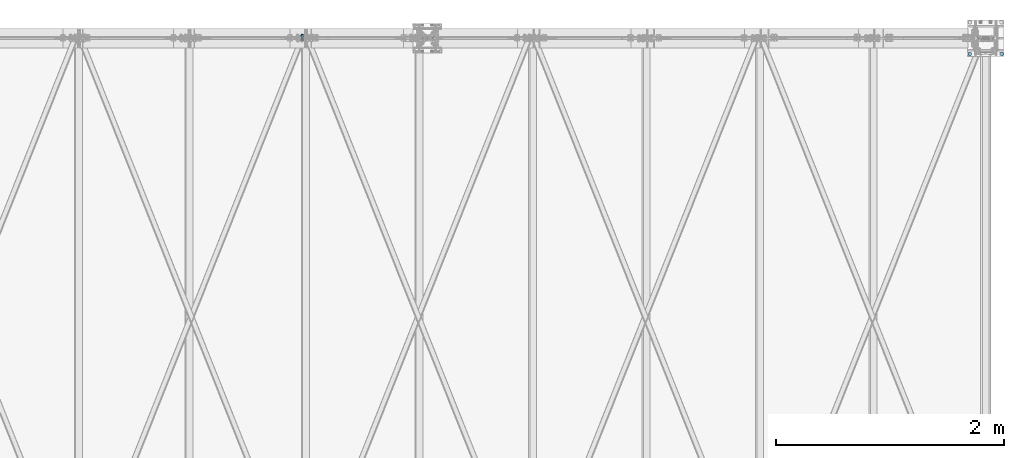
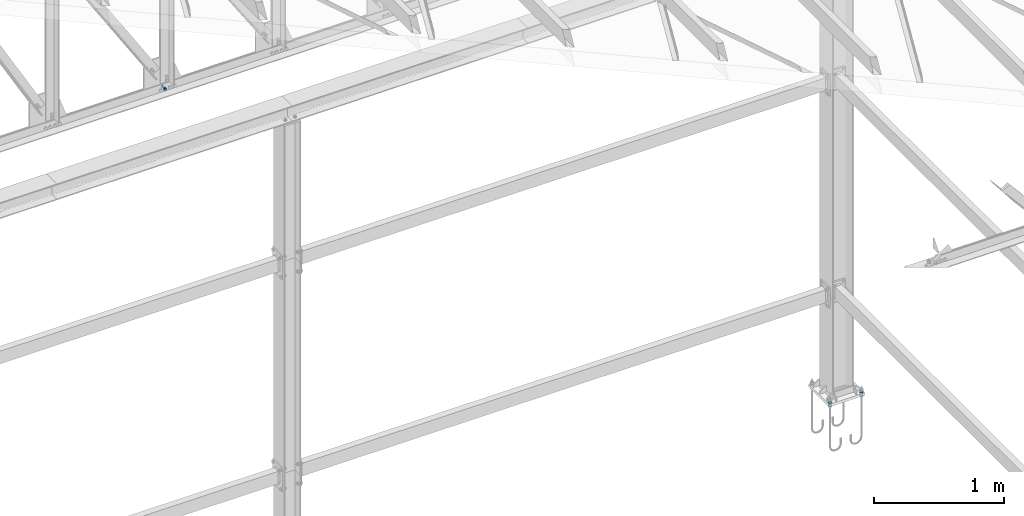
# One storey, part 209 of 251: 7 mechanical fasteners.
"""IFC4 building model written with IfcOpenShell, lengths in metres."""

import ifcopenshell
import ifcopenshell.guid

model = None  # the IFC model being written
_history = None  # IfcOwnerHistory: only IFC2X3 demands one
_inside = {}  # id of a spatial element -> (the spatial element, [elements in it])
_under = {}  # id of a project, library or spatial element -> (it, [spatial elements below it])
_declared = {}  # id of a project -> (the project, [libraries it declares])
_typed = {}  # id of a type object -> (the type object, [elements of that type])
_made_of = {}  # id of a material, layer set ... -> (it, [elements and type objects made of it])


def new_model(schema):
    """Start an empty IFC model of exactly this schema.

    Asked for "IFC4X3", IfcOpenShell would pick the latest addendum, in which some entities
    have other attributes; the version numbers below select the first issue.
    IFC2X3 requires an IfcOwnerHistory on every rooted entity: one is made here for all.
    """
    global model, _history
    if schema == "IFC4X3":
        model = ifcopenshell.file(schema_version=(4, 3, 0, 0))
    else:
        model = ifcopenshell.file(schema=schema)
    _inside.clear()
    _under.clear()
    _declared.clear()
    _typed.clear()
    _made_of.clear()
    _history = None
    if model.schema == "IFC2X3":
        org = make("IfcOrganization", Name="unknown")
        user = make(
            "IfcPersonAndOrganization",
            ThePerson=make("IfcPerson", FamilyName="unknown"),
            TheOrganization=org,
        )
        app = make(
            "IfcApplication",
            ApplicationDeveloper=org,
            Version="unknown",
            ApplicationFullName="unknown",
            ApplicationIdentifier="unknown",
        )
        _history = make(
            "IfcOwnerHistory",
            OwningUser=user,
            OwningApplication=app,
            ChangeAction="ADDED",
            CreationDate=0,
        )
    return model


def make(cls, **values):
    """One entity of the class cls with the attributes given. An attribute that is None is left unset."""
    return model.create_entity(
        cls, **{name: value for name, value in values.items() if value is not None}
    )


def rooted(cls, **values):
    """An entity with a GlobalId (a new one), such as an element, a storey or a relation."""
    return make(cls, GlobalId=ifcopenshell.guid.new(), OwnerHistory=_history, **values)


def si_unit(unit_type, name, prefix=None):
    """IfcSIUnit, for example si_unit("LENGTHUNIT", "METRE", prefix="MILLI")."""
    return make("IfcSIUnit", UnitType=unit_type, Prefix=prefix, Name=name)


def assignment(units):
    """IfcUnitAssignment: the units of a project."""
    return None if units is None else make("IfcUnitAssignment", Units=units)


def point(xyz):
    """IfcCartesianPoint."""
    return None if xyz is None else make("IfcCartesianPoint", Coordinates=xyz)


def direction(xyz):
    """IfcDirection."""
    return None if xyz is None else make("IfcDirection", DirectionRatios=xyz)


def frame(location, z_axis=None, x_axis=None):
    """IfcAxis2Placement3D, a coordinate frame: its origin and axes. An axis left out is left unset."""
    return make(
        "IfcAxis2Placement3D",
        Location=point(location),
        Axis=direction(z_axis),
        RefDirection=direction(x_axis),
    )


def origin_with_axes():
    """The frame at (0, 0, 0) with the z axis (0, 0, 1) and the x axis (1, 0, 0) written out."""
    return frame((0.0, 0.0, 0.0), z_axis=(0.0, 0.0, 1.0), x_axis=(1.0, 0.0, 0.0))


def place(relative_to, where):
    """IfcLocalPlacement: puts the frame where relative to a parent placement (None: the world)."""
    return make(
        "IfcLocalPlacement", PlacementRelTo=relative_to, RelativePlacement=where
    )


def context(
    kind, dimensions, precision=None, world=None, true_north=None, identifier=None
):
    """IfcGeometricRepresentationContext, for example the 3D "Model" context."""
    return make(
        "IfcGeometricRepresentationContext",
        ContextIdentifier=identifier,
        ContextType=kind,
        CoordinateSpaceDimension=dimensions,
        Precision=precision,
        WorldCoordinateSystem=world,
        TrueNorth=true_north,
    )


def project(units=None, contexts=None):
    """IfcProject with its units and contexts."""
    return rooted(
        "IfcProject",
        Name="project",
        RepresentationContexts=contexts,
        UnitsInContext=assignment(units),
    )


def spatial(cls, under=None, at=None, **own):
    """A site, building, storey or space (cls), placed at a placement, below another one or the project."""
    s = rooted(cls, ObjectPlacement=at, **own)
    if under is not None:
        _under.setdefault(under.id(), (under, []))[1].append(s)
    return s


def polyline(points):
    """IfcPolyline through the points."""
    return make("IfcPolyline", Points=[point(p) for p in points])


def outline(outer, holes=None, kind="AREA"):
    """IfcArbitraryClosedProfileDef: a profile drawn as a closed curve; with holes, ...WithVoids."""
    if holes is None:
        return make("IfcArbitraryClosedProfileDef", ProfileType=kind, OuterCurve=outer)
    return make(
        "IfcArbitraryProfileDefWithVoids",
        ProfileType=kind,
        OuterCurve=outer,
        InnerCurves=holes,
    )


def extrude(swept, where, along, depth):
    """IfcExtrudedAreaSolid: the profile swept, set in the frame where, extruded along a direction by depth."""
    return make(
        "IfcExtrudedAreaSolid",
        SweptArea=swept,
        Position=where,
        ExtrudedDirection=direction(along),
        Depth=depth,
    )


def shape(context_of_items, identifier, shape_type, items):
    """IfcShapeRepresentation: the items that make up one representation, for example the "Body"."""
    return make(
        "IfcShapeRepresentation",
        ContextOfItems=context_of_items,
        RepresentationIdentifier=identifier,
        RepresentationType=shape_type,
        Items=items,
    )


def made_of(thing, what):
    """Note that an element or type object is made of a material, layer set ...; save() writes the relation."""
    if what is not None:
        _made_of.setdefault(what.id(), (what, []))[1].append(thing)
    return thing


def type_object(cls, material=None, **own):
    """A type object (cls), such as IfcWallType, which elements share."""
    return made_of(rooted(cls, **own), material)


def element(
    cls,
    number,
    at=None,
    inside=None,
    cuts=None,
    type_object=None,
    material=None,
    context=None,
    identifier="Body",
    shape_type=None,
    held_by="IfcProductDefinitionShape",
    body=None,
    shapes=None,
    **own,
):
    """One element of the class cls, such as IfcWall. Its Tag is "e" and its number.

    at: its placement. inside: the storey or other place that contains it. cuts: it is an
    opening in that element (IfcRelVoidsElement). A single representation is given by context,
    identifier, shape_type and body (its items); several are given by shapes. held_by: the class
    of the entity that holds the representations. save() writes the other relations.
    """
    e = rooted(cls, Tag="e%d" % number, ObjectPlacement=at, **own)
    if body is not None:
        shapes = [shape(context, identifier, shape_type, body)]
    if shapes is not None:
        e.Representation = make(held_by, Representations=shapes)
    if inside is not None:
        _inside.setdefault(inside.id(), (inside, []))[1].append(e)
    if cuts is not None:
        rooted(
            "IfcRelVoidsElement", RelatingBuildingElement=cuts, RelatedOpeningElement=e
        )
    if type_object is not None:
        _typed.setdefault(type_object.id(), (type_object, []))[1].append(e)
    return made_of(e, material)


def aggregate(whole, parts):
    """IfcRelAggregates: a whole, such as a stair, and the parts it consists of."""
    return rooted("IfcRelAggregates", RelatingObject=whole, RelatedObjects=parts)


def save(model, path):
    """Write the relations noted so far, then the file.

    IfcRelAggregates (storeys below a building ...), IfcRelContainedInSpatialStructure (elements
    in a storey), IfcRelDefinesByType, IfcRelAssociatesMaterial and IfcRelDeclares: one each for
    every whole, place, type object, material and project.
    """
    for whole, parts in _under.values():
        aggregate(whole, parts)
    for where, things in _inside.values():
        rooted(
            "IfcRelContainedInSpatialStructure",
            RelatedElements=things,
            RelatingStructure=where,
        )
    for kind, things in _typed.values():
        rooted("IfcRelDefinesByType", RelatedObjects=things, RelatingType=kind)
    for what, things in _made_of.values():
        rooted("IfcRelAssociatesMaterial", RelatedObjects=things, RelatingMaterial=what)
    for by, libraries in _declared.values():
        rooted("IfcRelDeclares", RelatingContext=by, RelatedDefinitions=libraries)
    model.write(path)


model = new_model("IFC4")

# Units and contexts
model_context = context("Model", 3, precision=1e-05, world=origin_with_axes())
ifc_project = project(units=[si_unit("LENGTHUNIT", "METRE"), si_unit("AREAUNIT", "SQUARE_METRE"), si_unit("VOLUMEUNIT", "CUBIC_METRE"), si_unit("MASSUNIT", "GRAM", prefix="KILO"), si_unit("TIMEUNIT", "SECOND"), si_unit("PLANEANGLEUNIT", "RADIAN"), si_unit("SOLIDANGLEUNIT", "STERADIAN"), si_unit("THERMODYNAMICTEMPERATUREUNIT", "DEGREE_CELSIUS")], contexts=[model_context])

# Site, building, storey
placement_1 = place(None, origin_with_axes())
site = spatial("IfcSite", under=ifc_project, at=placement_1, Name="Italia", CompositionType="ELEMENT")
building = spatial("IfcBuilding", under=site, at=placement_1, Name="Deposito", CompositionType="ELEMENT")
storey = spatial("IfcBuildingStorey", under=building, at=placement_1, Name="Storey 0", CompositionType="ELEMENT", Elevation=0.0)

# Mechanical fasteners
mechanical_fastener_type_1 = type_object("IfcMechanicalFastenerType", Name="Collegamenti 0014_-001 0016_-054 0018_-056 0032_-002 0033_-058 0047_-003 0048_-060 0062_-004 0063_-005 0079_-008", PredefinedType="BOLT")
placement_2 = place(placement_1, origin_with_axes())
mechanical_fastener_1_placement = place(placement_2, origin_with_axes())
element("IfcMechanicalFastener", 1, at=mechanical_fastener_1_placement, inside=storey, type_object=mechanical_fastener_type_1, Name="Collegamenti 0014_-001 0016_-054 0018_-056 0032_-002 0033_-058 0047_-003 0048_-060 0062_-004 0063_-005 0079_-008", NominalDiameter=0.032, context=model_context, shape_type="SweptSolid", body=[
    extrude(outline(polyline([(0.0, 0.0), (-0.000545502, -0.00414085), (-0.00214386, -0.00799942), (-0.00468636, -0.0113144), (-0.00800133, -0.0138569), (-0.0118599, -0.0154552), (-0.0160007, -0.0160007), (-0.0201416, -0.0154552), (-0.0240002, -0.0138569), (-0.0273151, -0.0113144), (-0.0298576, -0.00799942), (-0.031456, -0.00414085), (-0.0320015, 0.0), (-0.031456, 0.00414085), (-0.0298576, 0.00799942), (-0.0273151, 0.0113144), (-0.0240002, 0.0138569), (-0.0201416, 0.0154552), (-0.0160007, 0.0160007), (-0.0118599, 0.0154552), (-0.00800133, 0.0138569), (-0.00468636, 0.0113144), (-0.00214386, 0.00799942), (-0.000545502, 0.00414085), (0.0, 0.0)])), frame((20.1395, 19.877, 0.075), z_axis=(0.0, 0.0, 1.0), x_axis=(0.0, 1.0, 0.0)), (0.0, 0.0, 1.0), 0.00399999),
])
mechanical_fastener_type_2 = type_object("IfcMechanicalFastenerType", Name="Collegamenti 0014_-001 0016_-054 0018_-056 0032_-002 0033_-058 0047_-003 0048_-060 0062_-004 0063_-005 0079_-008", PredefinedType="BOLT")
mechanical_fastener_2_placement = place(placement_2, origin_with_axes())
element("IfcMechanicalFastener", 2, at=mechanical_fastener_2_placement, inside=storey, type_object=mechanical_fastener_type_2, Name="Collegamenti 0014_-001 0016_-054 0018_-056 0032_-002 0033_-058 0047_-003 0048_-060 0062_-004 0063_-005 0079_-008", NominalDiameter=0.032, context=model_context, shape_type="SweptSolid", body=[
    extrude(outline(polyline([(0.0, 0.0), (-0.000545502, -0.00414085), (-0.00214386, -0.00799942), (-0.00468636, -0.0113144), (-0.00800133, -0.0138569), (-0.0118599, -0.0154552), (-0.0160007, -0.0160007), (-0.0201416, -0.0154552), (-0.0240002, -0.0138569), (-0.0273151, -0.0113144), (-0.0298576, -0.00799942), (-0.031456, -0.00414085), (-0.0320015, 0.0), (-0.031456, 0.00414085), (-0.0298576, 0.00799942), (-0.0273151, 0.0113144), (-0.0240002, 0.0138569), (-0.0201416, 0.0154552), (-0.0160007, 0.0160007), (-0.0118599, 0.0154552), (-0.00800133, 0.0138569), (-0.00468636, 0.0113144), (-0.00214386, 0.00799942), (-0.000545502, 0.00414085), (0.0, 0.0)])), frame((20.1395, 19.877, 0.046), z_axis=(0.0, 0.0, 1.0), x_axis=(0.0, 1.0, 0.0)), (0.0, 0.0, 1.0), 0.004),
])
mechanical_fastener_type_3 = type_object("IfcMechanicalFastenerType", Name="Collegamenti 0014_-001 0016_-054 0018_-056 0032_-002 0033_-058 0047_-003 0048_-060 0062_-004 0063_-005 0079_-008", PredefinedType="BOLT")
mechanical_fastener_3_placement = place(placement_2, origin_with_axes())
element("IfcMechanicalFastener", 3, at=mechanical_fastener_3_placement, inside=storey, type_object=mechanical_fastener_type_3, Name="Collegamenti 0014_-001 0016_-054 0018_-056 0032_-002 0033_-058 0047_-003 0048_-060 0062_-004 0063_-005 0079_-008", NominalDiameter=0.032, context=model_context, shape_type="SweptSolid", body=[
    extrude(outline(polyline([(0.0, 0.0), (-0.000545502, -0.00414085), (-0.00214386, -0.00799942), (-0.00468636, -0.0113144), (-0.00800133, -0.0138569), (-0.0118599, -0.0154552), (-0.0160007, -0.0160007), (-0.0201416, -0.0154552), (-0.0240002, -0.0138569), (-0.0273151, -0.0113144), (-0.0298576, -0.00799942), (-0.031456, -0.00414085), (-0.0320015, 0.0), (-0.031456, 0.00414085), (-0.0298576, 0.00799942), (-0.0273151, 0.0113144), (-0.0240002, 0.0138569), (-0.0201416, 0.0154552), (-0.0160007, 0.0160007), (-0.0118599, 0.0154552), (-0.00800133, 0.0138569), (-0.00468636, 0.0113144), (-0.00214386, 0.00799942), (-0.000545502, 0.00414085), (0.0, 0.0)])), frame((19.8605, 19.877, 0.075), z_axis=(0.0, 0.0, 1.0), x_axis=(0.0, 1.0, 0.0)), (0.0, 0.0, 1.0), 0.00399999),
])
mechanical_fastener_type_4 = type_object("IfcMechanicalFastenerType", Name="Collegamenti 0014_-001 0016_-054 0018_-056 0032_-002 0033_-058 0047_-003 0048_-060 0062_-004 0063_-005 0079_-008", PredefinedType="BOLT")
mechanical_fastener_4_placement = place(placement_2, origin_with_axes())
element("IfcMechanicalFastener", 4, at=mechanical_fastener_4_placement, inside=storey, type_object=mechanical_fastener_type_4, Name="Collegamenti 0014_-001 0016_-054 0018_-056 0032_-002 0033_-058 0047_-003 0048_-060 0062_-004 0063_-005 0079_-008", NominalDiameter=0.032, context=model_context, shape_type="SweptSolid", body=[
    extrude(outline(polyline([(0.0, 0.0), (-0.000545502, -0.00414085), (-0.00214386, -0.00799942), (-0.00468636, -0.0113144), (-0.00800133, -0.0138569), (-0.0118599, -0.0154552), (-0.0160007, -0.0160007), (-0.0201416, -0.0154552), (-0.0240002, -0.0138569), (-0.0273151, -0.0113144), (-0.0298576, -0.00799942), (-0.031456, -0.00414085), (-0.0320015, 0.0), (-0.031456, 0.00414085), (-0.0298576, 0.00799942), (-0.0273151, 0.0113144), (-0.0240002, 0.0138569), (-0.0201416, 0.0154552), (-0.0160007, 0.0160007), (-0.0118599, 0.0154552), (-0.00800133, 0.0138569), (-0.00468636, 0.0113144), (-0.00214386, 0.00799942), (-0.000545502, 0.00414085), (0.0, 0.0)])), frame((19.8605, 19.877, 0.046), z_axis=(0.0, 0.0, 1.0), x_axis=(0.0, 1.0, 0.0)), (0.0, 0.0, 1.0), 0.004),
])
mechanical_fastener_type_5 = type_object("IfcMechanicalFastenerType", Name="Reticolare 6", PredefinedType="BOLT")
mechanical_fastener_5_placement = place(placement_2, origin_with_axes())
element("IfcMechanicalFastener", 5, at=mechanical_fastener_5_placement, inside=storey, type_object=mechanical_fastener_type_5, Name="Reticolare 6", NominalDiameter=0.0139997, context=model_context, shape_type="SweptSolid", body=[
    extrude(outline(polyline([(0.0, 0.0), (-0.0139999, 0.0), (-0.0209999, 0.0121241), (-0.0139999, 0.0242486), (0.0, 0.0242486), (0.00699997, 0.0121241), (0.0, 0.0)])), frame((14.0078, 19.987, 4.99688), z_axis=(0.0, -1.0, 0.0), x_axis=(1.0, 0.0, 0.0)), (0.0, 0.0, 1.0), 0.0112),
])
mechanical_fastener_type_6 = type_object("IfcMechanicalFastenerType", Name="Reticolare 6", PredefinedType="BOLT")
mechanical_fastener_6_placement = place(placement_2, origin_with_axes())
element("IfcMechanicalFastener", 6, at=mechanical_fastener_6_placement, inside=storey, type_object=mechanical_fastener_type_6, Name="Reticolare 6", NominalDiameter=0.014, context=model_context, shape_type="SweptSolid", body=[
    extrude(outline(polyline([(0.0, 0.0), (-0.000238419, -0.0018115), (-0.000937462, -0.00349998), (-0.0020504, -0.00494957), (-0.00349998, -0.00606203), (-0.00518799, -0.00676155), (-0.00699997, -0.00699997), (-0.00881195, -0.00676155), (-0.0105, -0.00606203), (-0.0119495, -0.00494957), (-0.0130625, -0.00349998), (-0.0137615, -0.0018115), (-0.0139999, 0.0), (-0.0137615, 0.0018115), (-0.0130625, 0.00349998), (-0.0119495, 0.00494957), (-0.0105, 0.00606203), (-0.00881195, 0.00676155), (-0.00699997, 0.00699997), (-0.00518799, 0.00676155), (-0.00349998, 0.00606203), (-0.0020504, 0.00494957), (-0.000937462, 0.00349998), (-0.000238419, 0.0018115), (0.0, 0.0)])), frame((14.0078, 20.034, 5.009), z_axis=(0.0, -1.0, 0.0), x_axis=(1.0, 0.0, 0.0)), (0.0, 0.0, 1.0), 0.0470009),
])
mechanical_fastener_type_7 = type_object("IfcMechanicalFastenerType", Name="Reticolare 6", PredefinedType="BOLT")
mechanical_fastener_7_placement = place(placement_2, origin_with_axes())
element("IfcMechanicalFastener", 7, at=mechanical_fastener_7_placement, inside=storey, type_object=mechanical_fastener_type_7, Name="Reticolare 6", NominalDiameter=0.0139997, context=model_context, shape_type="SweptSolid", body=[
    extrude(outline(polyline([(0.0, 0.0), (-0.0139999, 0.0), (-0.0209999, 0.0121241), (-0.0139999, 0.0242486), (0.0, 0.0242486), (0.00699997, 0.0121241), (0.0, 0.0)])), frame((14.0078, 20.0262, 4.99688), z_axis=(0.0, -1.0, 0.0), x_axis=(1.0, 0.0, 0.0)), (0.0, 0.0, 1.0), 0.0112),
])

save(model, "model.ifc")
